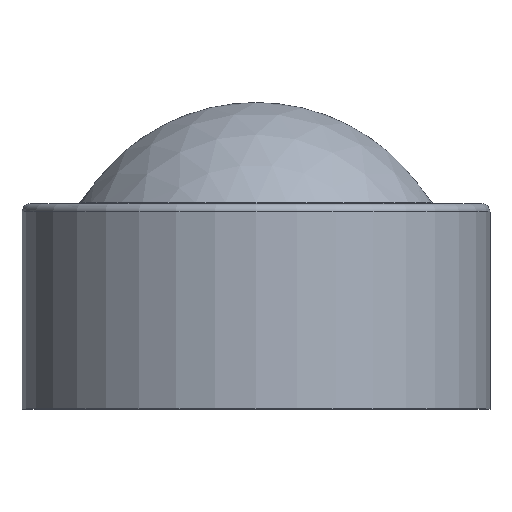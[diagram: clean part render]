
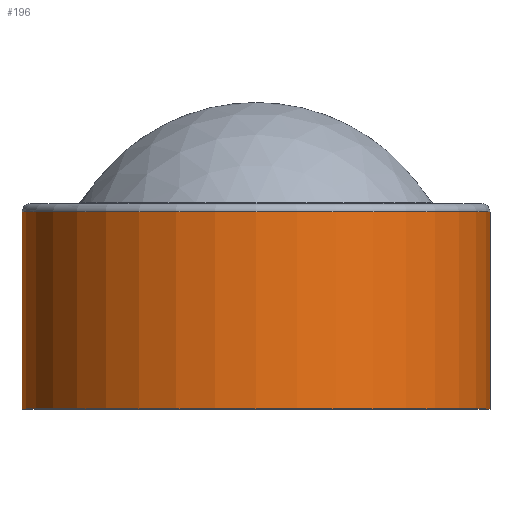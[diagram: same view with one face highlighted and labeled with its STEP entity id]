
A CAD part, top view. The second image highlights one B-rep face of the part: STEP entity #196.
In plain terms, the highlighted cylindrical face has radius 28.5 mm (diameter 57 mm), a full revolution.
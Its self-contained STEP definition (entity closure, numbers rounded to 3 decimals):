
#15=LINE('',#370,#18);
#18=VECTOR('',#314,28.5);
#21=CYLINDRICAL_SURFACE('',#249,28.5);
#44=FACE_OUTER_BOUND('',#61,.T.);
#61=EDGE_LOOP('',(#154,#155,#156,#157,#158));
#81=CIRCLE('',#246,28.5);
#82=CIRCLE('',#247,28.5);
#84=CIRCLE('',#250,28.5);
#97=VERTEX_POINT('',#362);
#98=VERTEX_POINT('',#363);
#99=VERTEX_POINT('',#368);
#116=EDGE_CURVE('',#97,#98,#81,.T.);
#117=EDGE_CURVE('',#98,#97,#82,.T.);
#119=EDGE_CURVE('',#99,#99,#84,.T.);
#120=EDGE_CURVE('',#99,#98,#15,.T.);
#154=ORIENTED_EDGE('',*,*,#119,.F.);
#155=ORIENTED_EDGE('',*,*,#120,.T.);
#156=ORIENTED_EDGE('',*,*,#116,.F.);
#157=ORIENTED_EDGE('',*,*,#117,.F.);
#158=ORIENTED_EDGE('',*,*,#120,.F.);
#196=ADVANCED_FACE('',(#44),#21,.T.);
#246=AXIS2_PLACEMENT_3D('',#364,#304,#305);
#247=AXIS2_PLACEMENT_3D('',#365,#306,#307);
#249=AXIS2_PLACEMENT_3D('',#367,#310,#311);
#250=AXIS2_PLACEMENT_3D('',#369,#312,#313);
#304=DIRECTION('center_axis',(0.,1.,0.));
#305=DIRECTION('ref_axis',(-1.,0.,0.));
#306=DIRECTION('center_axis',(0.,1.,0.));
#307=DIRECTION('ref_axis',(-1.,0.,0.));
#310=DIRECTION('center_axis',(0.,-1.,0.));
#311=DIRECTION('ref_axis',(1.,0.,0.));
#312=DIRECTION('center_axis',(0.,-1.,0.));
#313=DIRECTION('ref_axis',(1.,0.,0.));
#314=DIRECTION('',(0.,1.,0.));
#362=CARTESIAN_POINT('',(0.,-3.063,28.5));
#363=CARTESIAN_POINT('',(-28.5,-3.063,0.));
#364=CARTESIAN_POINT('Origin',(0.,-3.063,0.));
#365=CARTESIAN_POINT('Origin',(0.,-3.063,0.));
#367=CARTESIAN_POINT('Origin',(0.,-14.563,0.));
#368=CARTESIAN_POINT('',(-28.5,-27.063,0.));
#369=CARTESIAN_POINT('Origin',(0.,-27.063,0.));
#370=CARTESIAN_POINT('',(-28.5,-14.563,0.));
